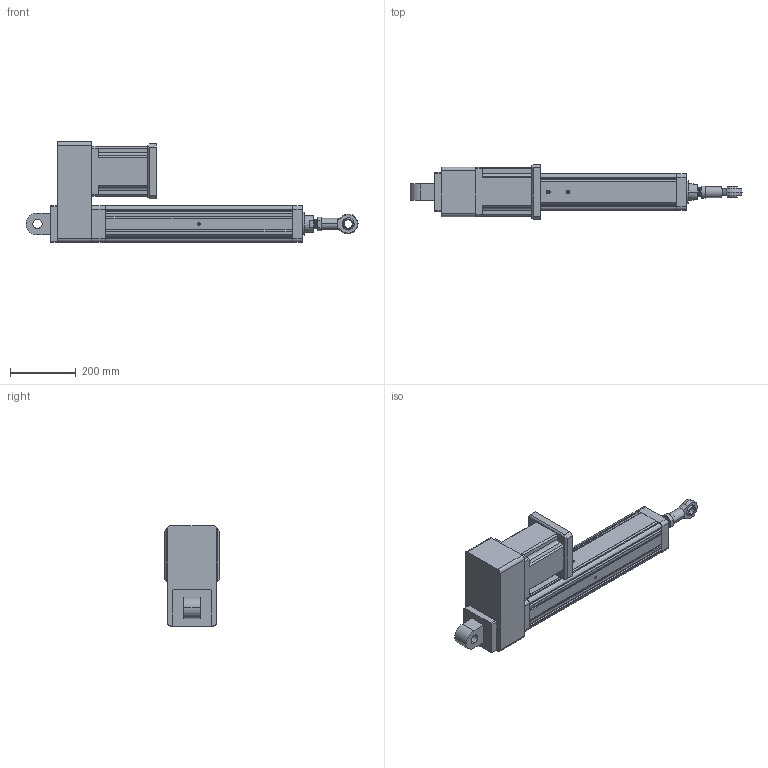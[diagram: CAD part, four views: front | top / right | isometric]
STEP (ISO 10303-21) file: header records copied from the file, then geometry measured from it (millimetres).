
FILE_DESCRIPTION (( 'STEP AP203' ), '1' );
FILE_NAME ('YRJ110-L400-H6K3.STEP', '2020-01-04T07:01:13', ( 'User' ), ( 'China' ), 'SwSTEP 2.0', 'SolidWorks 2016', '' );
FILE_SCHEMA (( 'CONFIG_CONTROL_DESIGN' ));
Length unit declared in the file: millimetre
Products named in the file (12): H3-110-2; K1-110; _BNC01-SI25T_K-R-001; _BNC01-SI25T_K-R-002; 095-100俴最倰第; BNC01-SI25T_K-R; 萇儂碟-110; K3-110; 142熬厒儂; YRJ110-L400-H6K3; H5-110-1; H6-110
Assembly tree (11 placements, depth 4):
  YRJ110-L400-H6K3
    095-100俴最倰第
    萇儂碟-110
    142熬厒儂
    H5-110-1
    H6-110
    H3-110-2
    K3-110
      K1-110
      BNC01-SI25T_K-R
        _BNC01-SI25T_K-R-001
        _BNC01-SI25T_K-R-002
Bounding box: 1010 x 168 x 305.5 mm (x, y, z)
Volume: 12697683.2 mm3; surface area: 1064110.4 mm2
Topology: 9 solids, 9 shells, 406 faces, 1116 edges, 719 vertices
Faces by surface type: plane 190, cylinder 168, cone 34, bspline 14
Entity records: 23115 total; most frequent: CARTESIAN_POINT 11746, ORIENTED_EDGE 2176, DIRECTION 2031, EDGE_CURVE 1088, VERTEX_POINT 719, AXIS2_PLACEMENT_3D 684, LINE 663, VECTOR 663
